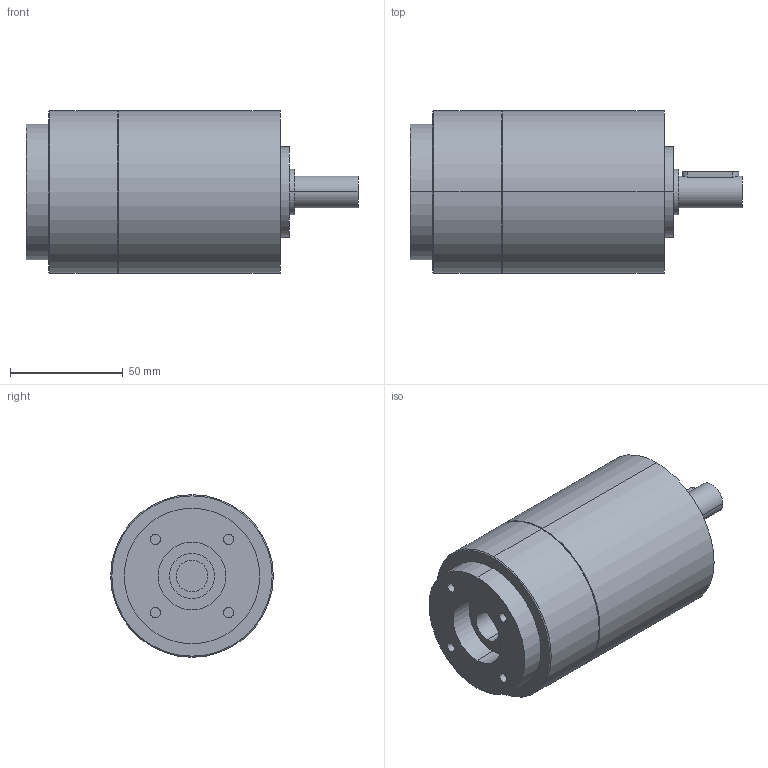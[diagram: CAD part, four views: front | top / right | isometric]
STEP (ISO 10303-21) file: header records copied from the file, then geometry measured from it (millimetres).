
FILE_DESCRIPTION(('CoCreate Modeling STEP Export'),'2;1');
FILE_NAME('GPT75_ig-9-12-16-20-25-28-35-40-50-70-100_14_B14T_14_P21.stp','2014-08-27T13:17:17',(''),(''),'CoCreate Modeling STEP processor for AP214 (Solid Model)','CoCreate Modeling 16.00C 25-Feb-2009 (C) Parametric Technology GmbH','');
FILE_SCHEMA(('AUTOMOTIVE_DESIGN { 1 0 10303 214 1 1 1 1 }'));
Length unit declared in the file: millimetre
Products named in the file (2): GPT75_ig-9-12-16-20-25-28-35-40-50-70-100_14_B14T_14_P21
Assembly tree (1 placements, depth 2):
  GPT75_ig-9-12-16-20-25-28-35-40-50-70-100_14_B14T_14_P21
    GPT75_ig-9-12-16-20-25-28-35-40-50-70-100_14_B14T_14_P21
Bounding box: 147 x 72 x 72 mm (x, y, z)
Volume: 443373.9 mm3; surface area: 39278.6 mm2
Topology: 1 solids, 1 shells, 64 faces, 142 edges, 97 vertices
Faces by surface type: cylinder 38, plane 22, cone 4
Entity records: 1878 total; most frequent: CARTESIAN_POINT 614, ORIENTED_EDGE 284, DIRECTION 210, EDGE_CURVE 142, VERTEX_POINT 97, AXIS2_PLACEMENT_3D 81, EDGE_LOOP 81, FACE_OUTER_BOUND 64
